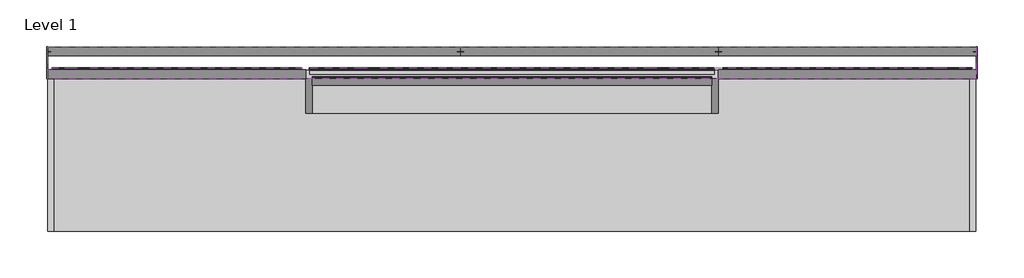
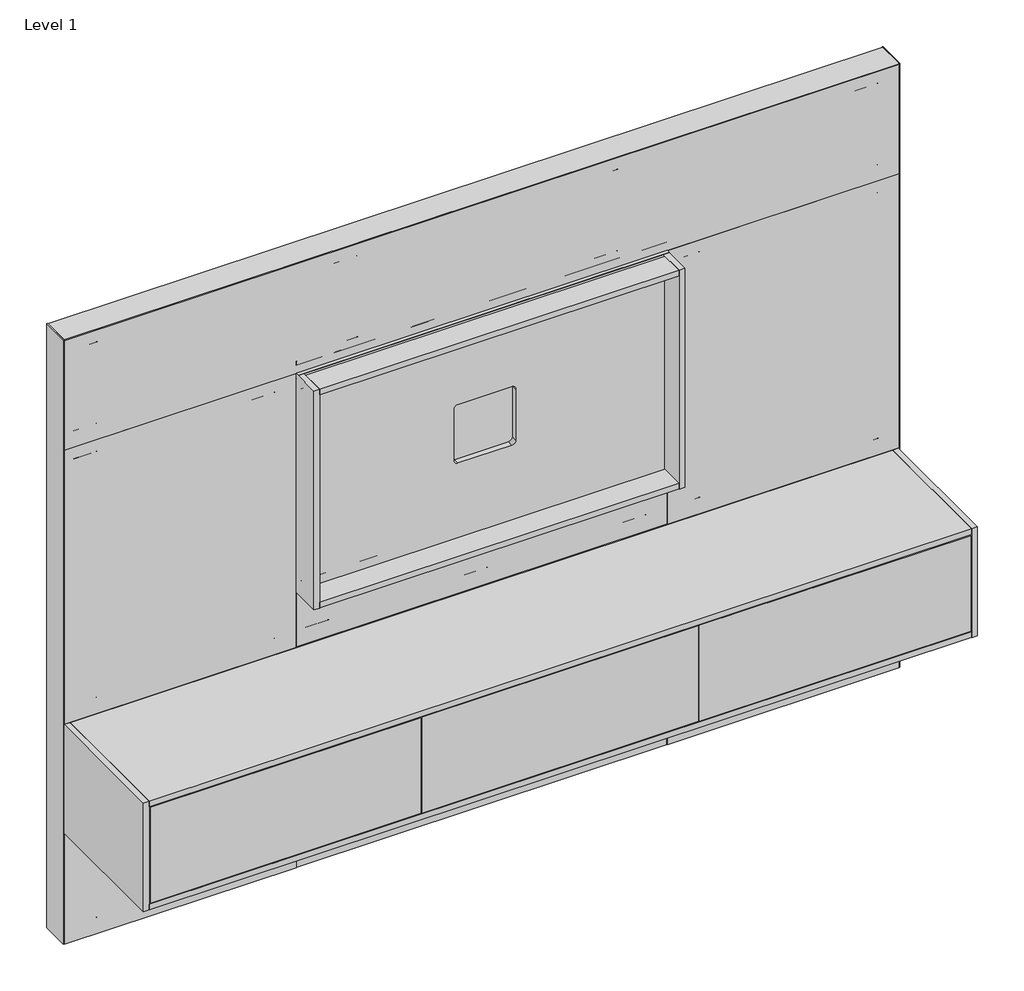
# One storey, incomplete: 15 furniture elements.
"""IFC4 building model written with IfcOpenShell, lengths in millimetres."""

from ifc_helpers import new_model, si_unit, origin, place, context, project, spatial, transform, mapped, element, save
from components import furniture_ab4901f7, furniture_0a34b4cb, furniture_1991a30d, furniture_478bec58, furniture_cf8474a0, furniture_aca357fb, furniture_3494295b, furniture_b4d1d0ed, furniture_f9bced88, furniture_a15ab5ae, furniture_09248376

model = new_model("IFC4")

# Units and contexts
model_context = context("Model", 3, world=origin())
ifc_project = project(units=[si_unit("LENGTHUNIT", "METRE", prefix="MILLI")], contexts=[model_context])

# Site, building, storey
site = spatial("IfcSite", under=ifc_project)
building = spatial("IfcBuilding", under=site)
storey = spatial("IfcBuildingStorey", under=building, Name="Level 1", Elevation=0.0)

# Furniture
placement = place(None, origin())
furniture_shape = furniture_ab4901f7(model_context)
element("IfcFurniture", 1, ObjectType="Geiger_GeigerOneCasegoods_WallFrameHuddleRoomApplication : 30Wx1Dx82.5H", at=placement, inside=storey, context=model_context, shape_type="MappedRepresentation", body=[
    mapped(furniture_shape, transform((2510.9991661, 3917.1196471, 0.0), x_axis=(1.0, 0.0, 0.0), y_axis=(0.0, 1.0, 0.0), z_axis=(0.0, 0.0, 1.0))),
])
element("IfcFurniture", 2, ObjectType="Geiger_GeigerOneCasegoods_WallFrameHuddleRoomApplication : 30Wx1Dx82.5H", at=placement, inside=storey, context=model_context, shape_type="MappedRepresentation", body=[
    mapped(furniture_shape, transform((3272.9991661, 3917.1196471, 0.0), x_axis=(1.0, 0.0, 0.0), y_axis=(0.0, 1.0, 0.0), z_axis=(0.0, 0.0, 1.0))),
])
furniture_2_shape = furniture_0a34b4cb(model_context)
element("IfcFurniture", 3, ObjectType="Geiger_GeigerOneCasegoods_WallFrameHuddleRoomApplication : 48Wx1Dx82.5H", at=placement, inside=storey, context=model_context, shape_type="MappedRepresentation", body=[
    mapped(furniture_2_shape, transform((1291.7991661, 3917.1196471, 0.0), x_axis=(1.0, 0.0, 0.0), y_axis=(0.0, 1.0, 0.0), z_axis=(0.0, 0.0, 1.0))),
])
furniture_3_shape = furniture_1991a30d(model_context)
element("IfcFurniture", 4, ObjectType="Geiger_GeigerOneCasegoods_HangingStorageThreeSections : Vertical Veneer 108Wx18Dx14.875H", at=placement, inside=storey, context=model_context, shape_type="MappedRepresentation", body=[
    mapped(furniture_3_shape, transform((1291.7991661, 3823.6396471, 397.357), x_axis=(1.0, 0.0, 0.0), y_axis=(0.0, 1.0, 0.0), z_axis=(0.0, 0.0, 1.0))),
])
furniture_4_shape = furniture_478bec58(model_context)
element("IfcFurniture", 5, ObjectType="Geiger_GeigerOneCasegoods_WallTopTrimDoubleSidedWall : 108Wx3.75Dx0.125H", at=placement, inside=storey, context=model_context, shape_type="MappedRepresentation", body=[
    mapped(furniture_4_shape, transform((1291.7991661, 3870.1296471, 2108.2), x_axis=(1.0, 0.0, 0.0), y_axis=(0.0, 1.0, 0.0), z_axis=(0.0, 0.0, 1.0))),
])
furniture_5_shape = furniture_cf8474a0(model_context)
element("IfcFurniture", 6, ObjectType="Geiger_GeigerOneCasegoods_WallEndTrim : DoubleSided 3.75Wx 0.125Dx 82.625H", at=placement, inside=storey, context=model_context, shape_type="MappedRepresentation", body=[
    mapped(furniture_5_shape, transform((1288.6241661, 3871.2943673, 12.7), x_axis=(1.0, 0.0, 0.0), y_axis=(0.0, 1.0, 0.0), z_axis=(0.0, 0.0, 1.0))),
])
element("IfcFurniture", 7, ObjectType="Geiger_GeigerOneCasegoods_WallEndTrim : DoubleSided 3.75Wx 0.125Dx 82.625H", at=placement, inside=storey, context=model_context, shape_type="MappedRepresentation", body=[
    mapped(furniture_5_shape, transform((4034.9991661, 3871.2943673, 12.7), x_axis=(1.0, 0.0, 0.0), y_axis=(0.0, 1.0, 0.0), z_axis=(0.0, 0.0, 1.0))),
])
furniture_6_shape = furniture_aca357fb(model_context)
element("IfcFurniture", 8, ObjectType="Geiger_GeigerOneCasegoods_WallTVBoxAcceptsShelfandTile : Horizontal Veneer Back 48Wx4.25Dx29.875H", at=placement, inside=storey, context=model_context, shape_type="MappedRepresentation", body=[
    mapped(furniture_6_shape, transform((2053.7991661, 3830.3876673, 967.8742234), x_axis=(1.0, 0.0, 0.0), y_axis=(0.0, 1.0, 0.0), z_axis=(0.0, 0.0, 1.0))),
])
furniture_7_shape = furniture_3494295b(model_context)
element("IfcFurniture", 9, ObjectType="Geiger_GeigerOneCasegoods_WallTileTopTileorWallMountedFabric : RR Fabric 108Wx 1.25Dx 15H", at=placement, inside=storey, context=model_context, shape_type="MappedRepresentation", body=[
    mapped(furniture_7_shape, transform((1291.7991661, 3849.6693673, 1728.1906), x_axis=(1.0, 0.0, 0.0), y_axis=(0.0, 1.0, 0.0), z_axis=(0.0, 0.0, 1.0))),
])
furniture_8_shape = furniture_b4d1d0ed(model_context)
element("IfcFurniture", 10, ObjectType="Geiger_GeigerOneCasegoods_WallTileTopTileorWallMountedFabric : RR Fabric 30Wx 1.25Dx 37.5H 1.25 yds", at=placement, inside=storey, context=model_context, shape_type="MappedRepresentation", body=[
    mapped(furniture_8_shape, transform((3272.9991661, 3849.6693673, 776.6906), x_axis=(1.0, 0.0, 0.0), y_axis=(0.0, 1.0, 0.0), z_axis=(0.0, 0.0, 1.0))),
])
element("IfcFurniture", 11, ObjectType="Geiger_GeigerOneCasegoods_WallTileTopTileorWallMountedFabric : RR Fabric 30Wx 1.25Dx 37.5H 1.25 yds", at=placement, inside=storey, context=model_context, shape_type="MappedRepresentation", body=[
    mapped(furniture_8_shape, transform((1291.7991661, 3849.6693673, 776.6906), x_axis=(1.0, 0.0, 0.0), y_axis=(0.0, 1.0, 0.0), z_axis=(0.0, 0.0, 1.0))),
])
furniture_9_shape = furniture_f9bced88(model_context)
element("IfcFurniture", 12, ObjectType="Geiger_GeigerOneCasegoods_WallTileAcceptsTileAboveFabric : RR Fabric 48Wx 1.25Dx 7.5H", at=placement, inside=storey, context=model_context, shape_type="MappedRepresentation", body=[
    mapped(furniture_9_shape, transform((2053.7991661, 3856.0701673, 778.3742234), x_axis=(1.0, 0.0, 0.0), y_axis=(0.0, 1.0, 0.0), z_axis=(0.0, 0.0, 1.0))),
])
furniture_10_shape = furniture_a15ab5ae(model_context)
element("IfcFurniture", 13, ObjectType="Geiger_GeigerOneCasegoods_WallTileAcceptsTileAbove : TFL 30Wx 1.25Dx 15H", at=placement, inside=storey, context=model_context, shape_type="MappedRepresentation", body=[
    mapped(furniture_10_shape, transform((1291.7991661, 3849.6693673, 11.1012), x_axis=(1.0, 0.0, 0.0), y_axis=(0.0, 1.0, 0.0), z_axis=(0.0, 0.0, 1.0))),
])
element("IfcFurniture", 14, ObjectType="Geiger_GeigerOneCasegoods_WallTileAcceptsTileAbove : TFL 30Wx 1.25Dx 15H", at=placement, inside=storey, context=model_context, shape_type="MappedRepresentation", body=[
    mapped(furniture_10_shape, transform((3272.9991661, 3849.6693673, 11.1012), x_axis=(1.0, 0.0, 0.0), y_axis=(0.0, 1.0, 0.0), z_axis=(0.0, 0.0, 1.0))),
])
furniture_11_shape = furniture_09248376(model_context)
element("IfcFurniture", 15, ObjectType="Geiger_GeigerOneCasegoods_WallTileAcceptsTileAbove : TFL 48Wx 1.25Dx 15H", at=placement, inside=storey, context=model_context, shape_type="MappedRepresentation", body=[
    mapped(furniture_11_shape, transform((2051.7714469, 3849.6693673, 11.1012), x_axis=(1.0, 0.0, 0.0), y_axis=(0.0, 1.0, 0.0), z_axis=(0.0, 0.0, 1.0))),
])

save(model, "model.ifc")
